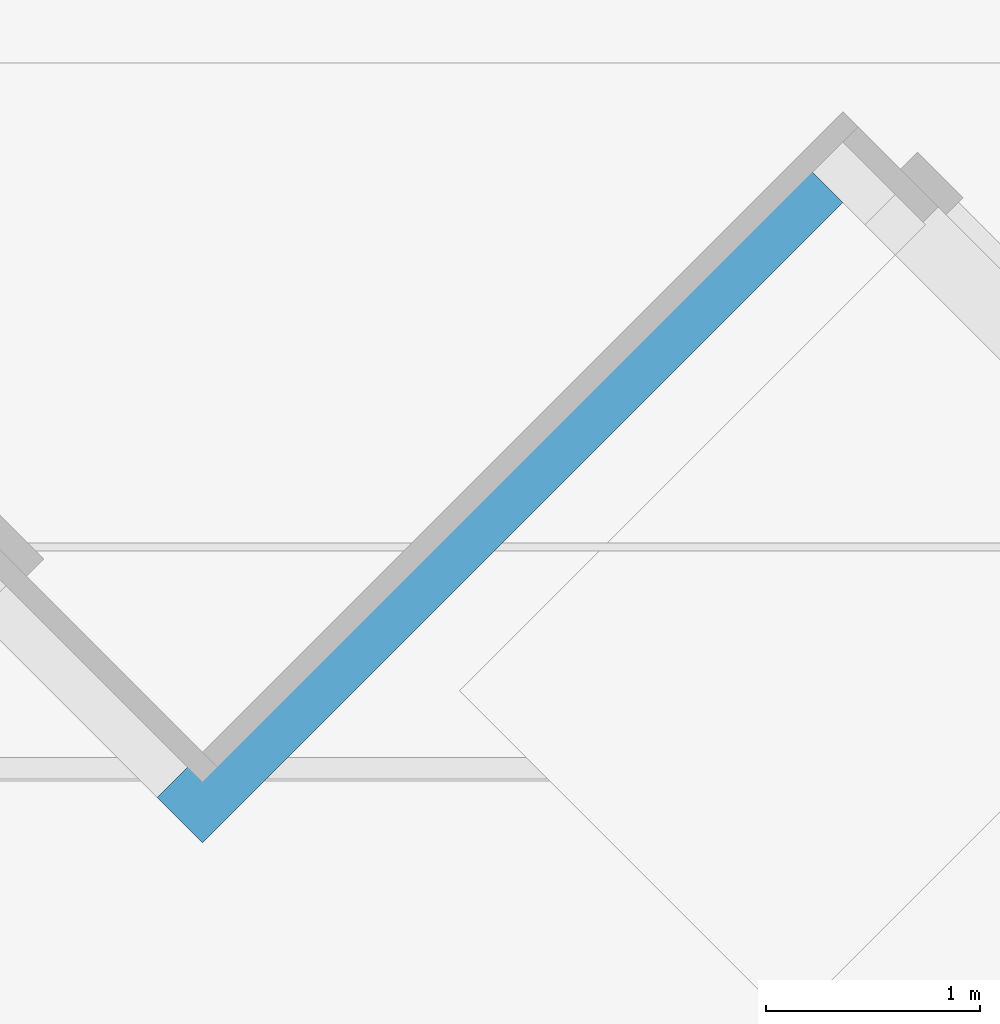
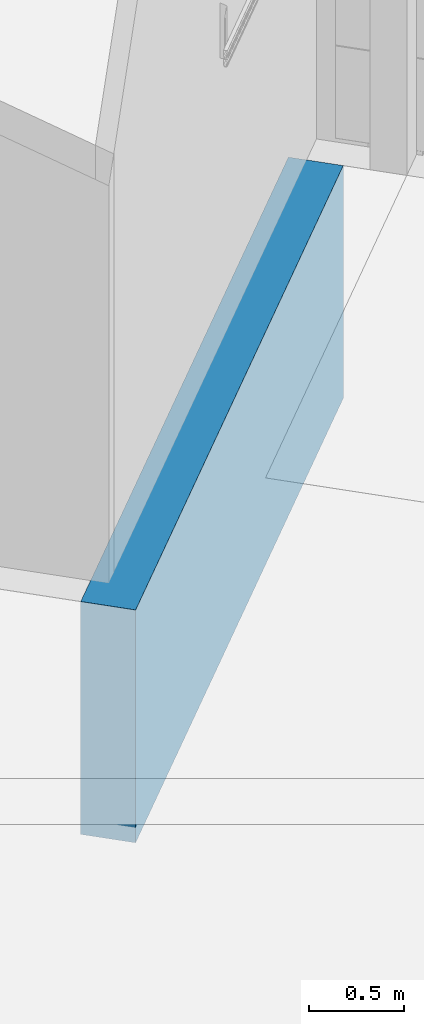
# One storey, part 45 of 64: 1 wall.
"""IFC2X3 building model written with IfcOpenShell, lengths in millimetres."""

from ifc_helpers import new_model, entity, si_unit, converted_unit, derived_unit, direction, frame, frame_2d, origin, place, context, subcontext, project, spatial, rectangle, extrude, material, layer, layer_set, layer_usage, type_object, element, save


model = new_model("IFC2X3")

# Units and contexts
model_context = context("Model", 3, precision=0.01, world=origin(), true_north=direction((4.05803320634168e-15, -1.0)))
body_context = subcontext(model_context, "Body", "Model", "MODEL_VIEW")
ifc_project = project(units=[si_unit("LENGTHUNIT", "METRE", prefix="MILLI"), si_unit("AREAUNIT", "SQUARE_METRE"), si_unit("VOLUMEUNIT", "CUBIC_METRE"), converted_unit("PLANEANGLEUNIT", "DEGREE", entity("IfcRatioMeasure", 0.0174532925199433), si_unit("PLANEANGLEUNIT", "RADIAN"), dimensions=[0, 0, 0, 0, 0, 0, 0]), si_unit("MASSUNIT", "GRAM", prefix="KILO"), derived_unit("MASSDENSITYUNIT", [(si_unit("MASSUNIT", "GRAM", prefix="KILO"), 1), (si_unit("LENGTHUNIT", "METRE"), -3)]), si_unit("TIMEUNIT", "SECOND"), si_unit("FREQUENCYUNIT", "HERTZ"), si_unit("THERMODYNAMICTEMPERATUREUNIT", "DEGREE_CELSIUS"), derived_unit("THERMALTRANSMITTANCEUNIT", [(si_unit("MASSUNIT", "GRAM", prefix="KILO"), 1), (si_unit("THERMODYNAMICTEMPERATUREUNIT", "KELVIN"), -1), (si_unit("TIMEUNIT", "SECOND"), -3)]), derived_unit("VOLUMETRICFLOWRATEUNIT", [(si_unit("LENGTHUNIT", "METRE"), 3), (si_unit("TIMEUNIT", "SECOND"), -1)]), si_unit("ELECTRICCURRENTUNIT", "AMPERE"), si_unit("ELECTRICVOLTAGEUNIT", "VOLT"), si_unit("POWERUNIT", "WATT"), si_unit("FORCEUNIT", "NEWTON", prefix="KILO"), si_unit("ILLUMINANCEUNIT", "LUX"), si_unit("LUMINOUSFLUXUNIT", "LUMEN"), si_unit("LUMINOUSINTENSITYUNIT", "CANDELA"), derived_unit("USERDEFINED", [(si_unit("MASSUNIT", "GRAM", prefix="KILO"), -1), (si_unit("LENGTHUNIT", "METRE"), -2), (si_unit("TIMEUNIT", "SECOND"), 3), (si_unit("LUMINOUSFLUXUNIT", "LUMEN"), 1)]), derived_unit("LINEARVELOCITYUNIT", [(si_unit("LENGTHUNIT", "METRE"), 1), (si_unit("TIMEUNIT", "SECOND"), -1)]), si_unit("PRESSUREUNIT", "PASCAL"), derived_unit("USERDEFINED", [(si_unit("LENGTHUNIT", "METRE"), -2), (si_unit("MASSUNIT", "GRAM", prefix="KILO"), 1), (si_unit("TIMEUNIT", "SECOND"), -2)])], contexts=[model_context])

# Site, building, storey
site_placement = place(None, frame((927466.849349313, 583801.882853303, 0.0), z_axis=(0.0, 0.0, 1.0), x_axis=(-1.0, 0.0, 0.0)))
site = spatial("IfcSite", under=ifc_project, at=site_placement, Name="Surface", CompositionType="ELEMENT")
building_placement = place(site_placement, origin())
building = spatial("IfcBuilding", under=site, at=building_placement, CompositionType="ELEMENT")
storey_placement = place(building_placement, frame((0.0, 0.0, 44170.0)))
storey = spatial("IfcBuildingStorey", under=building, at=storey_placement, Name="Ground FFL", CompositionType="ELEMENT", Elevation=44170.0)

# Wall
ifc_material = material(Name="conc bund")
ifc_layer = layer(ifc_material, 300.0)
ifc_layer_set = layer_set([ifc_layer], Name="Basic Wall:300 bund wall")
ifc_layer_usage = layer_usage(ifc_layer_set, "AXIS2", "POSITIVE", -150.0)
wall_type = type_object("IfcWallType", Name="Basic Wall:300 bund wall", PredefinedType="STANDARD", material=ifc_layer_set)
wall_placement = place(storey_placement, frame((-113862.340520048, -33356.1242200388, -1500.0), z_axis=(0.0, 0.0, 1.0), x_axis=(0.70710678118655, 0.707106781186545, 0.0)))
element("IfcWallStandardCase", 1, at=wall_placement, inside=storey, type_object=wall_type, material=ifc_layer_usage, Name="Basic Wall:300 bund wall", ObjectType="Basic Wall:300 bund wall", context=body_context, shape_type="SweptSolid", body=[
    extrude(rectangle(XDim=4232.26267936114, YDim=300.000000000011, at=frame_2d((2116.13133968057, -5.6559201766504e-12), x_axis=(-1.0, 0.0))), origin(), (0.0, 0.0, 1.0), 1500.00000000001),
])

save(model, "model.ifc")
